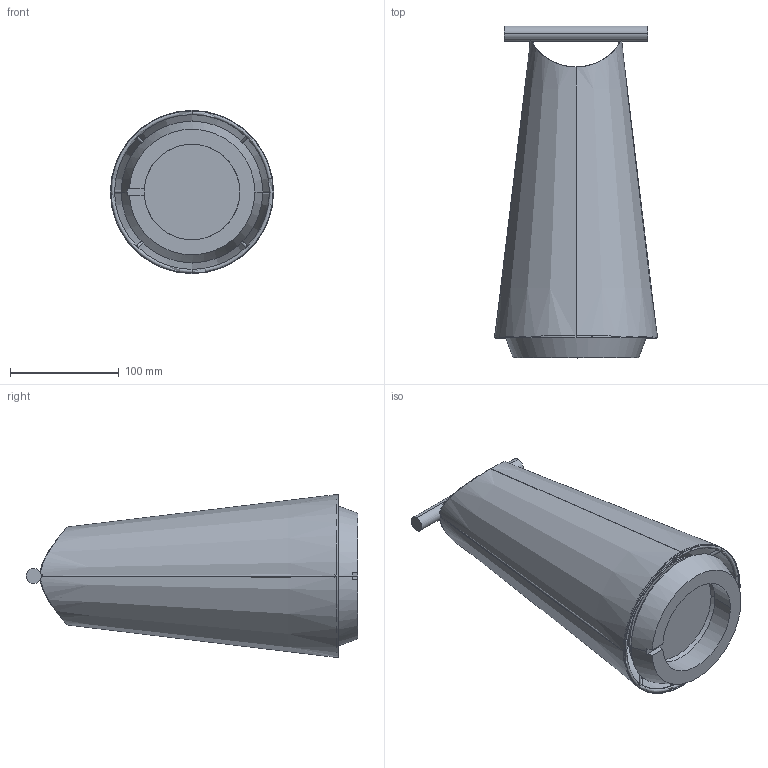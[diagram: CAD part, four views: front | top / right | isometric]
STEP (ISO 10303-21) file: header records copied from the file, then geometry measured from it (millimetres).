
FILE_DESCRIPTION (( 'STEP AP214' ), '1' );
FILE_NAME ('CATAY PORTABLE.STEP', '2026-01-15T15:18:02', ( '' ), ( '' ), 'SwSTEP 2.0', 'SolidWorks 2016', '' );
FILE_SCHEMA (( 'AUTOMOTIVE_DESIGN' ));
Length unit declared in the file: millimetre
Products named in the file (14): BASE MODULO LED; ESTRUCTURA VARILLA CATAY PORTABLE PEQUEÑA MESA; BASE CATAY PORTABLE; FUNDA PARA MODULO LED; PANTALLA LAMPARA CATAY PORTABLE; MANGO CATAY PORTABLE; MÓDULO LED CON BATERÍA; CATAY PORTABLE
Assembly tree (7 placements, depth 3):
  ESTRUCTURA VARILLA CATAY PORTABLE PEQUEÑA MESA
  BASE CATAY PORTABLE
  PANTALLA LAMPARA CATAY PORTABLE
  BASE MODULO LED
  MANGO CATAY PORTABLE
Bounding box: 150 x 305 x 150 mm (x, y, z)
Volume: 261743.1 mm3; surface area: 304051.4 mm2
Topology: 7 solids, 7 shells, 116 faces, 286 edges, 188 vertices
Faces by surface type: cylinder 57, cone 26, plane 25, sphere 4, torus 4
Entity records: 4606 total; most frequent: CARTESIAN_POINT 1431, DIRECTION 624, ORIENTED_EDGE 572, EDGE_CURVE 286, AXIS2_PLACEMENT_3D 268, VERTEX_POINT 188, CIRCLE 140, EDGE_LOOP 140
